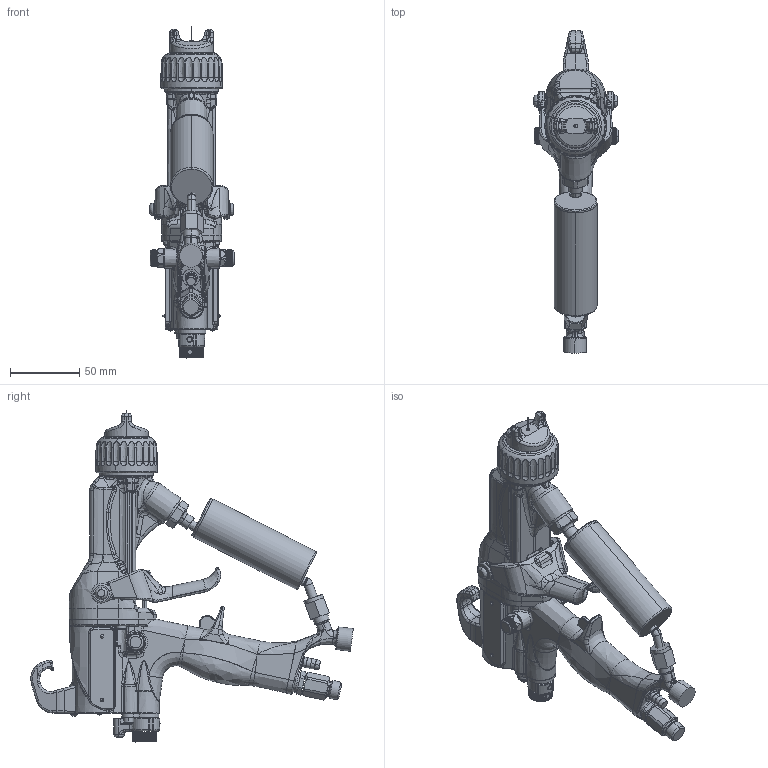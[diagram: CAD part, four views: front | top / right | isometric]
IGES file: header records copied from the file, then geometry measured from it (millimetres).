
Start section:  PTC IGES file: l60t13-en-e.igs
Global section: file name: l60t13-en-e.igs; native system: Creo Parametric by PTC Inc.; preprocessor: 2019030; author: qusrh3; organization: Unknown; date: 20200518.163528; units: inch
Bounding box: 61.27 x 233.22 x 240.18 mm (x, y, z)
Surface area: 97221.6 mm2 (no closed solid volume)
Topology: 0 solids, 0 shells, 2689 faces, 13477 edges, 13468 vertices
Faces by surface type: bspline 1425, revolution 1260, extrusion 4
